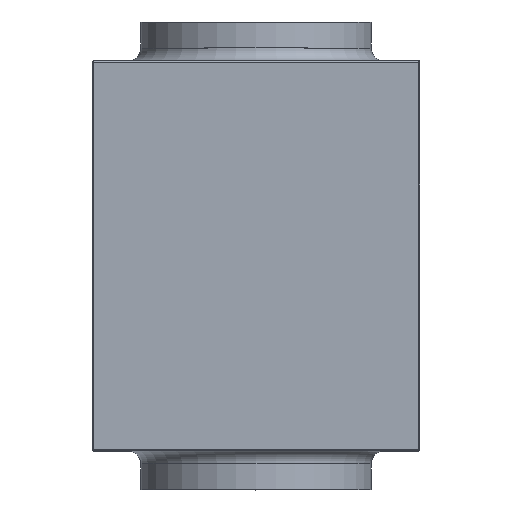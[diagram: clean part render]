
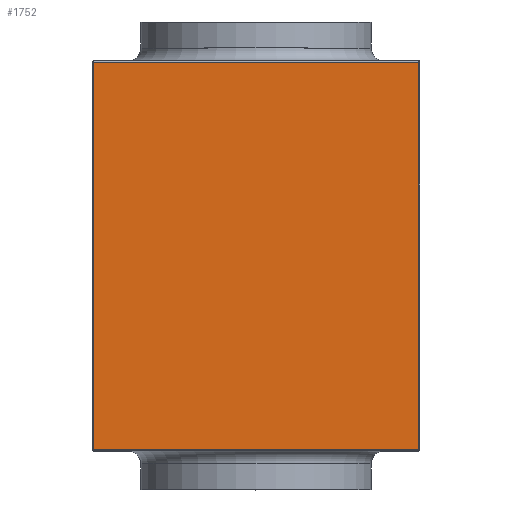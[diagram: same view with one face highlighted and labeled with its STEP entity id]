
A CAD part, top view. The second image highlights one B-rep face of the part: STEP entity #1752.
In plain terms, the highlighted planar face has unit normal (0, 0, 1).
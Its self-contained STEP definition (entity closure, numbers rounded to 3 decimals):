
#173=FACE_OUTER_BOUND('',#281,.T.);
#281=EDGE_LOOP('',(#1272,#1273,#1274,#1275));
#375=LINE('',#2520,#584);
#379=LINE('',#2534,#588);
#382=LINE('',#2540,#591);
#386=LINE('',#2546,#595);
#584=VECTOR('',#2058,10.);
#588=VECTOR('',#2074,10.);
#591=VECTOR('',#2081,10.);
#595=VECTOR('',#2089,10.);
#797=VERTEX_POINT('',#2491);
#803=VERTEX_POINT('',#2513);
#808=VERTEX_POINT('',#2529);
#809=VERTEX_POINT('',#2533);
#961=EDGE_CURVE('',#803,#797,#375,.T.);
#968=EDGE_CURVE('',#809,#808,#379,.T.);
#972=EDGE_CURVE('',#808,#803,#382,.T.);
#976=EDGE_CURVE('',#797,#809,#386,.T.);
#1272=ORIENTED_EDGE('',*,*,#968,.F.);
#1273=ORIENTED_EDGE('',*,*,#976,.F.);
#1274=ORIENTED_EDGE('',*,*,#961,.F.);
#1275=ORIENTED_EDGE('',*,*,#972,.F.);
#1656=PLANE('',#1889);
#1752=ADVANCED_FACE('',(#173),#1656,.T.);
#1889=AXIS2_PLACEMENT_3D('',#2562,#2111,#2112);
#2058=DIRECTION('',(0.,1.,0.));
#2074=DIRECTION('',(0.,-1.,0.));
#2081=DIRECTION('',(-1.,0.,0.));
#2089=DIRECTION('',(1.,0.,0.));
#2111=DIRECTION('center_axis',(0.,0.,1.));
#2112=DIRECTION('ref_axis',(1.,0.,0.));
#2491=CARTESIAN_POINT('',(-250.,298.,252.5));
#2513=CARTESIAN_POINT('',(-250.,-298.,252.5));
#2520=CARTESIAN_POINT('',(-250.,0.,252.5));
#2529=CARTESIAN_POINT('',(250.,-298.,252.5));
#2533=CARTESIAN_POINT('',(250.,298.,252.5));
#2534=CARTESIAN_POINT('',(250.,0.,252.5));
#2540=CARTESIAN_POINT('',(-126.,-298.,252.5));
#2546=CARTESIAN_POINT('',(-126.,298.,252.5));
#2562=CARTESIAN_POINT('Origin',(-252.,0.,252.5));
